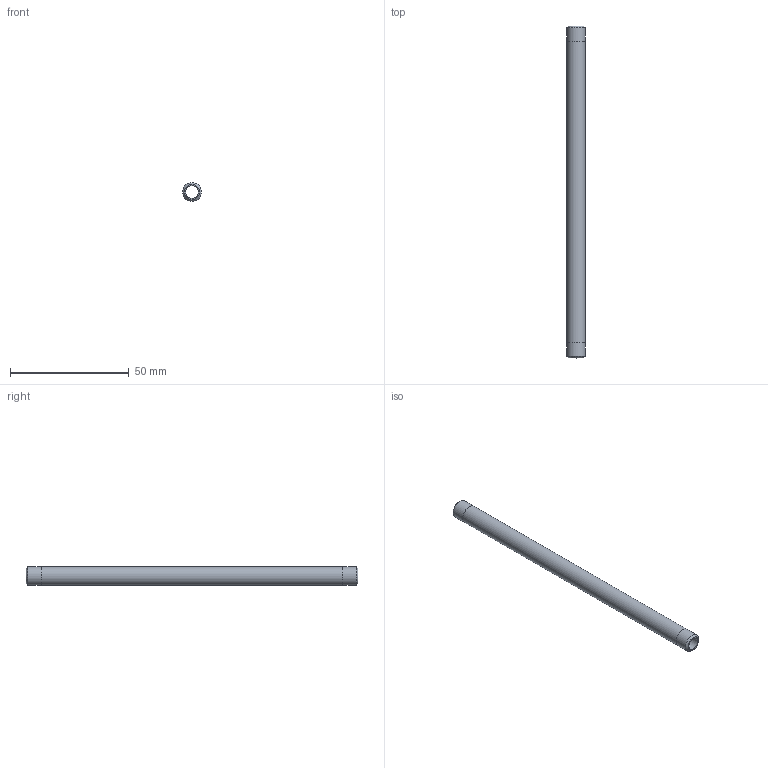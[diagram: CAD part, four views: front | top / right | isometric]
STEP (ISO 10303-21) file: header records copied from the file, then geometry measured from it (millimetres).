
FILE_DESCRIPTION(/* description */ (''),/* implementation_level */ '2;1');
FILE_NAME(/* name */ 'C:/Users/drich/Desktop/BPN16-5-1_2 v1.step',/* time_stamp */ '2020-01-03T14:42:45-06:00',/* author */ (''),/* organization */ (''),/* preprocessor_version */ 'ST-DEVELOPER v18',/* originating_system */ 'Autodesk Translation Framework v8.12.0.6',/* authorisation */ '');
FILE_SCHEMA (('AUTOMOTIVE_DESIGN { 1 0 10303 214 3 1 1 }'));
Length unit declared in the file: inch
Products named in the file (1): BPN16-5-1_2
Bounding box: 7.92 x 139.7 x 7.92 mm (x, y, z)
Volume: 3777.2 mm3; surface area: 5836.6 mm2
Topology: 1 solids, 1 shells, 10 faces, 24 edges, 18 vertices
Faces by surface type: cylinder 4, plane 4, cone 2
Full cylindrical faces by diameter (mm): 5.309 x1, 7.874 x2, 7.925 x1
Entity records: 360 total; most frequent: DIRECTION 64, CARTESIAN_POINT 53, ORIENTED_EDGE 48, AXIS2_PLACEMENT_3D 29, EDGE_CURVE 24, CIRCLE 18, VERTEX_POINT 18, EDGE_LOOP 14
